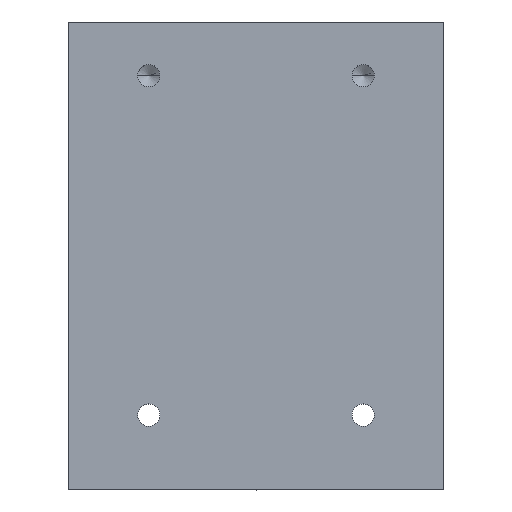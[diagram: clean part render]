
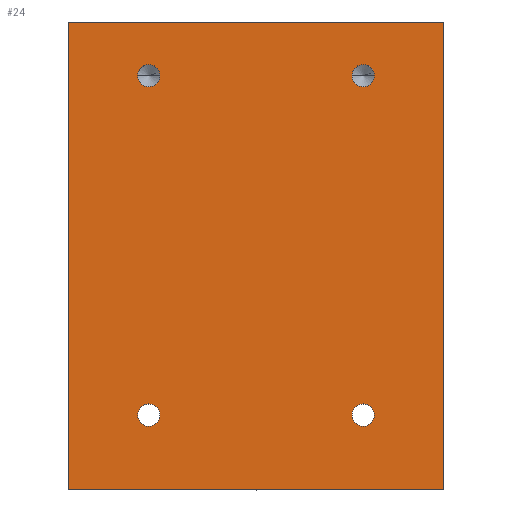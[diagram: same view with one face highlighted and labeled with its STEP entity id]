
A CAD part, top view. The second image highlights one B-rep face of the part: STEP entity #24.
In plain terms, the highlighted planar face has unit normal (0, 0, 1).
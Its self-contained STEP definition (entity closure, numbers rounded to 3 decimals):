
#16 = DIRECTION ( 'NONE',  ( 1., 0., 0. ) ) ;
#20 = ORIENTED_EDGE ( 'NONE', *, *, #1623, .F. ) ;
#24 = ADVANCED_FACE ( 'NONE', ( #1435, #216, #1643, #238, #333 ), #1215, .T. ) ;
#47 = EDGE_CURVE ( 'NONE', #1084, #264, #123, .T. ) ;
#77 = LINE ( 'NONE', #677, #1507 ) ;
#80 = CIRCLE ( 'NONE', #1459, 1.25 ) ;
#116 = CARTESIAN_POINT ( 'NONE',  ( -13.25, -17.85, 47. ) ) ;
#117 = CARTESIAN_POINT ( 'NONE',  ( 12., -17.85, 47. ) ) ;
#121 = DIRECTION ( 'NONE',  ( 0., 0., 1. ) ) ;
#123 = LINE ( 'NONE', #483, #1472 ) ;
#128 = EDGE_CURVE ( 'NONE', #1120, #1084, #757, .T. ) ;
#145 = CIRCLE ( 'NONE', #423, 1.25 ) ;
#150 = VERTEX_POINT ( 'NONE', #180 ) ;
#180 = CARTESIAN_POINT ( 'NONE',  ( -10.75, -17.85, 47. ) ) ;
#190 = AXIS2_PLACEMENT_3D ( 'NONE', #1178, #788, #321 ) ;
#196 = CARTESIAN_POINT ( 'NONE',  ( 21., -26.15, 47. ) ) ;
#215 = DIRECTION ( 'NONE',  ( 0., 0., 1. ) ) ;
#216 = FACE_BOUND ( 'NONE', #1458, .T. ) ;
#231 = CIRCLE ( 'NONE', #547, 1.25 ) ;
#235 = EDGE_CURVE ( 'NONE', #827, #731, #145, .T. ) ;
#238 = FACE_BOUND ( 'NONE', #1674, .T. ) ;
#264 = VERTEX_POINT ( 'NONE', #1478 ) ;
#269 = VERTEX_POINT ( 'NONE', #196 ) ;
#295 = DIRECTION ( 'NONE',  ( 1., 0., 0. ) ) ;
#321 = DIRECTION ( 'NONE',  ( 1., 0., 0. ) ) ;
#326 = VERTEX_POINT ( 'NONE', #896 ) ;
#333 = FACE_OUTER_BOUND ( 'NONE', #639, .T. ) ;
#363 = AXIS2_PLACEMENT_3D ( 'NONE', #1476, #1165, #627 ) ;
#379 = ORIENTED_EDGE ( 'NONE', *, *, #481, .F. ) ;
#423 = AXIS2_PLACEMENT_3D ( 'NONE', #1837, #915, #1772 ) ;
#426 = CARTESIAN_POINT ( 'NONE',  ( 12., 20.15, 47. ) ) ;
#443 = CARTESIAN_POINT ( 'NONE',  ( -21., 26.15, 47. ) ) ;
#456 = CIRCLE ( 'NONE', #913, 1.25 ) ;
#480 = VERTEX_POINT ( 'NONE', #707 ) ;
#481 = EDGE_CURVE ( 'NONE', #1268, #326, #608, .T. ) ;
#483 = CARTESIAN_POINT ( 'NONE',  ( -21., 26.15, 47. ) ) ;
#494 = ORIENTED_EDGE ( 'NONE', *, *, #776, .F. ) ;
#514 = VERTEX_POINT ( 'NONE', #1140 ) ;
#521 = AXIS2_PLACEMENT_3D ( 'NONE', #637, #215, #1083 ) ;
#547 = AXIS2_PLACEMENT_3D ( 'NONE', #679, #1067, #1475 ) ;
#577 = DIRECTION ( 'NONE',  ( -1., 0., 0. ) ) ;
#579 = EDGE_LOOP ( 'NONE', ( #1796, #1337 ) ) ;
#607 = DIRECTION ( 'NONE',  ( 0., 0., 1. ) ) ;
#608 = CIRCLE ( 'NONE', #648, 1.25 ) ;
#627 = DIRECTION ( 'NONE',  ( 1., 0., 0. ) ) ;
#637 = CARTESIAN_POINT ( 'NONE',  ( 0., 0., 47. ) ) ;
#639 = EDGE_LOOP ( 'NONE', ( #1455, #953, #1335, #1724 ) ) ;
#648 = AXIS2_PLACEMENT_3D ( 'NONE', #426, #1279, #295 ) ;
#669 = DIRECTION ( 'NONE',  ( 0., 1., 0. ) ) ;
#677 = CARTESIAN_POINT ( 'NONE',  ( -21., -26.15, 47. ) ) ;
#679 = CARTESIAN_POINT ( 'NONE',  ( -12., -17.85, 47. ) ) ;
#707 = CARTESIAN_POINT ( 'NONE',  ( 13.25, -17.85, 47. ) ) ;
#731 = VERTEX_POINT ( 'NONE', #1612 ) ;
#757 = LINE ( 'NONE', #1063, #1546 ) ;
#762 = EDGE_CURVE ( 'NONE', #150, #1591, #456, .T. ) ;
#776 = EDGE_CURVE ( 'NONE', #480, #514, #80, .T. ) ;
#788 = DIRECTION ( 'NONE',  ( 0., 0., 1. ) ) ;
#827 = VERTEX_POINT ( 'NONE', #1131 ) ;
#858 = ORIENTED_EDGE ( 'NONE', *, *, #1633, .F. ) ;
#896 = CARTESIAN_POINT ( 'NONE',  ( 10.75, 20.15, 47. ) ) ;
#913 = AXIS2_PLACEMENT_3D ( 'NONE', #1124, #121, #981 ) ;
#915 = DIRECTION ( 'NONE',  ( 0., 0., 1. ) ) ;
#923 = CARTESIAN_POINT ( 'NONE',  ( 21., 26.15, 47. ) ) ;
#928 = EDGE_CURVE ( 'NONE', #326, #1268, #1486, .T. ) ;
#947 = CARTESIAN_POINT ( 'NONE',  ( 21., 26.15, 47. ) ) ;
#953 = ORIENTED_EDGE ( 'NONE', *, *, #128, .T. ) ;
#975 = DIRECTION ( 'NONE',  ( 0., 0., 1. ) ) ;
#981 = DIRECTION ( 'NONE',  ( 1., 0., 0. ) ) ;
#1002 = EDGE_CURVE ( 'NONE', #269, #1120, #1733, .T. ) ;
#1025 = EDGE_CURVE ( 'NONE', #264, #269, #77, .T. ) ;
#1032 = EDGE_CURVE ( 'NONE', #731, #827, #1130, .T. ) ;
#1043 = CARTESIAN_POINT ( 'NONE',  ( 12., 20.15, 47. ) ) ;
#1063 = CARTESIAN_POINT ( 'NONE',  ( -21., 26.15, 47. ) ) ;
#1067 = DIRECTION ( 'NONE',  ( 0., 0., 1. ) ) ;
#1083 = DIRECTION ( 'NONE',  ( 1., 0., 0. ) ) ;
#1084 = VERTEX_POINT ( 'NONE', #443 ) ;
#1120 = VERTEX_POINT ( 'NONE', #947 ) ;
#1124 = CARTESIAN_POINT ( 'NONE',  ( -12., -17.85, 47. ) ) ;
#1130 = CIRCLE ( 'NONE', #363, 1.25 ) ;
#1131 = CARTESIAN_POINT ( 'NONE',  ( -10.75, 20.15, 47. ) ) ;
#1140 = CARTESIAN_POINT ( 'NONE',  ( 10.75, -17.85, 47. ) ) ;
#1165 = DIRECTION ( 'NONE',  ( 0., 0., 1. ) ) ;
#1178 = CARTESIAN_POINT ( 'NONE',  ( 12., -17.85, 47. ) ) ;
#1215 = PLANE ( 'NONE',  #521 ) ;
#1268 = VERTEX_POINT ( 'NONE', #1345 ) ;
#1279 = DIRECTION ( 'NONE',  ( 0., 0., 1. ) ) ;
#1321 = CIRCLE ( 'NONE', #190, 1.25 ) ;
#1335 = ORIENTED_EDGE ( 'NONE', *, *, #47, .T. ) ;
#1337 = ORIENTED_EDGE ( 'NONE', *, *, #1032, .F. ) ;
#1345 = CARTESIAN_POINT ( 'NONE',  ( 13.25, 20.15, 47. ) ) ;
#1347 = DIRECTION ( 'NONE',  ( 0., -1., 0. ) ) ;
#1388 = VECTOR ( 'NONE', #669, 1000. ) ;
#1406 = AXIS2_PLACEMENT_3D ( 'NONE', #1043, #607, #1542 ) ;
#1435 = FACE_BOUND ( 'NONE', #579, .T. ) ;
#1455 = ORIENTED_EDGE ( 'NONE', *, *, #1002, .T. ) ;
#1458 = EDGE_LOOP ( 'NONE', ( #379, #1629 ) ) ;
#1459 = AXIS2_PLACEMENT_3D ( 'NONE', #117, #975, #1828 ) ;
#1472 = VECTOR ( 'NONE', #1347, 1000. ) ;
#1475 = DIRECTION ( 'NONE',  ( 1., 0., 0. ) ) ;
#1476 = CARTESIAN_POINT ( 'NONE',  ( -12., 20.15, 47. ) ) ;
#1478 = CARTESIAN_POINT ( 'NONE',  ( -21., -26.15, 47. ) ) ;
#1486 = CIRCLE ( 'NONE', #1406, 1.25 ) ;
#1507 = VECTOR ( 'NONE', #16, 1000. ) ;
#1542 = DIRECTION ( 'NONE',  ( 1., 0., 0. ) ) ;
#1546 = VECTOR ( 'NONE', #577, 1000. ) ;
#1559 = EDGE_LOOP ( 'NONE', ( #1780, #20 ) ) ;
#1591 = VERTEX_POINT ( 'NONE', #116 ) ;
#1612 = CARTESIAN_POINT ( 'NONE',  ( -13.25, 20.15, 47. ) ) ;
#1623 = EDGE_CURVE ( 'NONE', #1591, #150, #231, .T. ) ;
#1629 = ORIENTED_EDGE ( 'NONE', *, *, #928, .F. ) ;
#1633 = EDGE_CURVE ( 'NONE', #514, #480, #1321, .T. ) ;
#1643 = FACE_BOUND ( 'NONE', #1559, .T. ) ;
#1674 = EDGE_LOOP ( 'NONE', ( #494, #858 ) ) ;
#1724 = ORIENTED_EDGE ( 'NONE', *, *, #1025, .T. ) ;
#1733 = LINE ( 'NONE', #923, #1388 ) ;
#1772 = DIRECTION ( 'NONE',  ( 1., 0., 0. ) ) ;
#1780 = ORIENTED_EDGE ( 'NONE', *, *, #762, .F. ) ;
#1796 = ORIENTED_EDGE ( 'NONE', *, *, #235, .F. ) ;
#1828 = DIRECTION ( 'NONE',  ( 1., 0., 0. ) ) ;
#1837 = CARTESIAN_POINT ( 'NONE',  ( -12., 20.15, 47. ) ) ;
